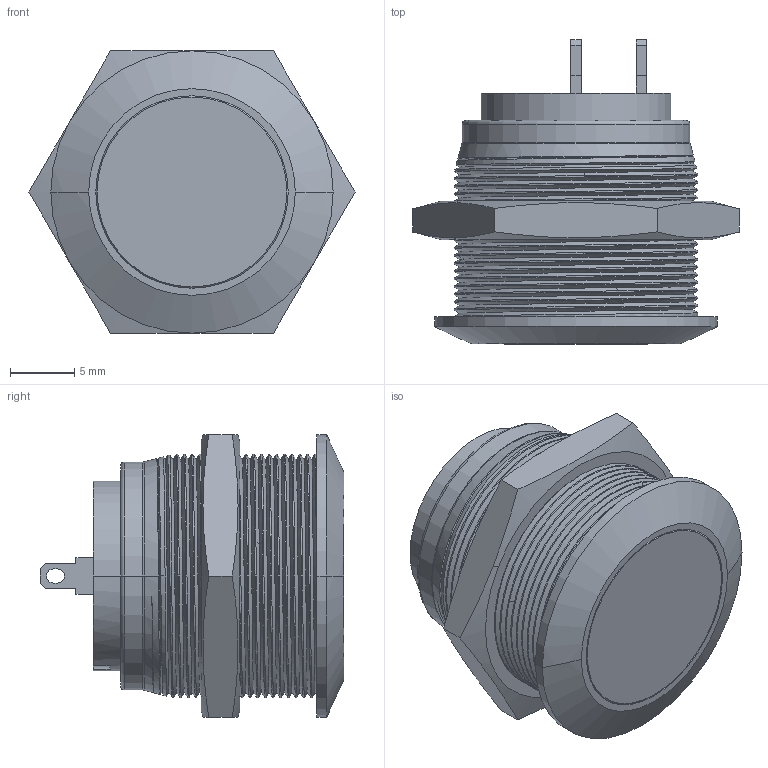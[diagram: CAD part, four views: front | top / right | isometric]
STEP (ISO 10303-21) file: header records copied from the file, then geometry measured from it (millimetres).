
FILE_DESCRIPTION((''),'2;1');
FILE_NAME('AV09C703D200','2010-04-19T',('snouilhan'),(''),'PRO/ENGINEER BY PARAMETRIC TECHNOLOGY CORPORATION, 2009440','PRO/ENGINEER BY PARAMETRIC TECHNOLOGY CORPORATION, 2009440','');
FILE_SCHEMA(('CONFIG_CONTROL_DESIGN'));
Length unit declared in the file: millimetre
Products named in the file (1): AV09C703D200
Bounding box: 25.4 x 23.68 x 22 mm (x, y, z)
Surface area: 4150.4 mm2 (no closed solid volume)
Topology: 0 solids, 10 shells, 196 faces, 551 edges, 373 vertices
Faces by surface type: plane 81, cylinder 70, cone 17, bspline 14, sphere 10, torus 4
Entity records: 14237 total; most frequent: CARTESIAN_POINT 9401, ORIENTED_EDGE 987, DIRECTION 893, EDGE_CURVE 551, VERTEX_POINT 373, VECTOR 311, LINE 311, AXIS2_PLACEMENT_3D 291
